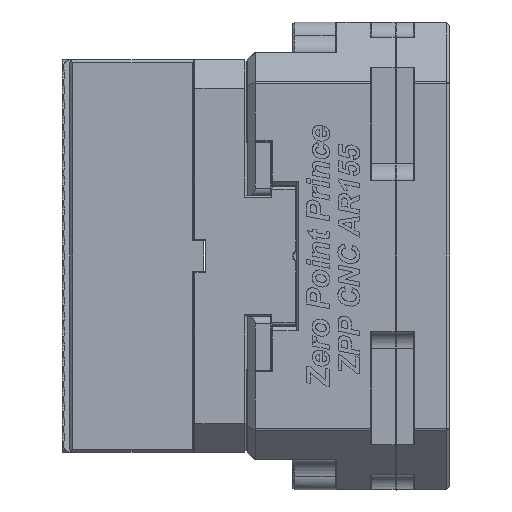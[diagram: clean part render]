
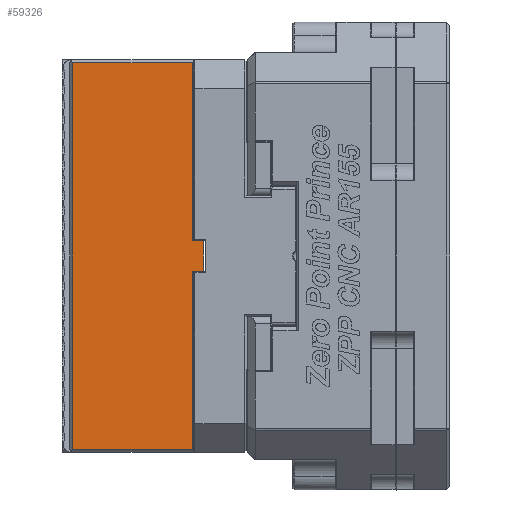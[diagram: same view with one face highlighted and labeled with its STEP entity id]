
A CAD part, left-side view. The second image highlights one B-rep face of the part: STEP entity #59326.
In plain terms, the highlighted planar face has unit normal (-1, 0, 0).
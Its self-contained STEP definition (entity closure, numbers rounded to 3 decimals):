
#57384=DIRECTION('',(0.,0.,1.));
#57385=VECTOR('',#57384,128.);
#57386=CARTESIAN_POINT('',(0.,125.,-64.));
#57387=LINE('',#57386,#57385);
#57388=DIRECTION('',(0.,-1.,0.));
#57389=VECTOR('',#57388,39.7);
#57390=CARTESIAN_POINT('',(0.,125.,64.));
#57391=LINE('',#57390,#57389);
#57392=DIRECTION('',(0.,0.,-1.));
#57393=VECTOR('',#57392,59.);
#57394=CARTESIAN_POINT('',(0.,85.3,64.));
#57395=LINE('',#57394,#57393);
#57396=DIRECTION('',(0.,0.,-1.));
#57397=VECTOR('',#57396,10.);
#57398=CARTESIAN_POINT('',(0.,81.8,5.));
#57399=LINE('',#57398,#57397);
#57400=DIRECTION('',(0.,0.,-1.));
#57401=VECTOR('',#57400,59.);
#57402=CARTESIAN_POINT('',(0.,85.3,-5.));
#57403=LINE('',#57402,#57401);
#57412=DIRECTION('',(0.,1.,0.));
#57413=VECTOR('',#57412,3.5);
#57414=CARTESIAN_POINT('',(0.,81.8,5.));
#57415=LINE('',#57414,#57413);
#57530=DIRECTION('',(0.,-1.,0.));
#57531=VECTOR('',#57530,39.7);
#57532=CARTESIAN_POINT('',(0.,125.,-64.));
#57533=LINE('',#57532,#57531);
#57546=DIRECTION('',(0.,-1.,0.));
#57547=VECTOR('',#57546,3.5);
#57548=CARTESIAN_POINT('',(0.,85.3,-5.));
#57549=LINE('',#57548,#57547);
#58370=CARTESIAN_POINT('',(0.,85.3,64.));
#58371=VERTEX_POINT('',#58370);
#58372=CARTESIAN_POINT('',(0.,125.,64.));
#58373=VERTEX_POINT('',#58372);
#58506=CARTESIAN_POINT('',(0.,125.,-64.));
#58507=VERTEX_POINT('',#58506);
#58508=CARTESIAN_POINT('',(0.,85.3,5.));
#58509=VERTEX_POINT('',#58508);
#58510=CARTESIAN_POINT('',(0.,81.8,5.));
#58511=VERTEX_POINT('',#58510);
#58512=CARTESIAN_POINT('',(0.,81.8,-5.));
#58513=VERTEX_POINT('',#58512);
#58514=CARTESIAN_POINT('',(0.,85.3,-5.));
#58515=VERTEX_POINT('',#58514);
#58516=CARTESIAN_POINT('',(0.,85.3,-64.));
#58517=VERTEX_POINT('',#58516);
#59305=CARTESIAN_POINT('',(0.,85.,-65.));
#59306=DIRECTION('',(-1.,0.,0.));
#59307=DIRECTION('',(0.,0.,1.));
#59308=AXIS2_PLACEMENT_3D('',#59305,#59306,#59307);
#59309=PLANE('',#59308);
#59310=ORIENTED_EDGE('',*,*,#59295,.T.);
#59311=ORIENTED_EDGE('',*,*,#58910,.T.);
#59313=ORIENTED_EDGE('',*,*,#59312,.T.);
#59315=ORIENTED_EDGE('',*,*,#59314,.F.);
#59317=ORIENTED_EDGE('',*,*,#59316,.T.);
#59319=ORIENTED_EDGE('',*,*,#59318,.F.);
#59321=ORIENTED_EDGE('',*,*,#59320,.T.);
#59323=ORIENTED_EDGE('',*,*,#59322,.F.);
#59324=EDGE_LOOP('',(#59310,#59311,#59313,#59315,#59317,#59319,#59321,#59323));
#59325=FACE_OUTER_BOUND('',#59324,.F.);
#59326=ADVANCED_FACE('',(#59325),#59309,.T.);
#58910=EDGE_CURVE('',#58373,#58371,#57391,.T.);
#59295=EDGE_CURVE('',#58507,#58373,#57387,.T.);
#59312=EDGE_CURVE('',#58371,#58509,#57395,.T.);
#59314=EDGE_CURVE('',#58511,#58509,#57415,.T.);
#59316=EDGE_CURVE('',#58511,#58513,#57399,.T.);
#59318=EDGE_CURVE('',#58515,#58513,#57549,.T.);
#59320=EDGE_CURVE('',#58515,#58517,#57403,.T.);
#59322=EDGE_CURVE('',#58507,#58517,#57533,.T.);
